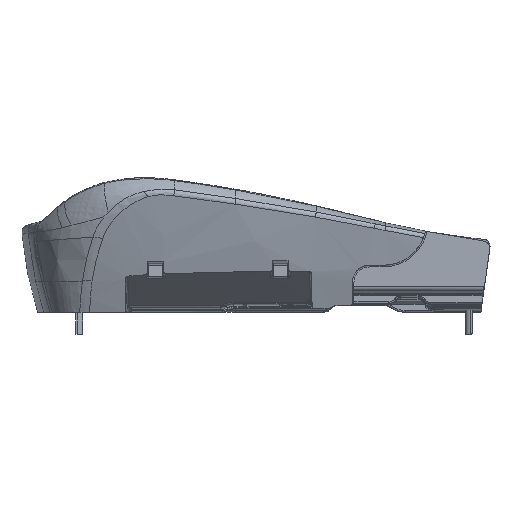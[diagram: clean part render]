
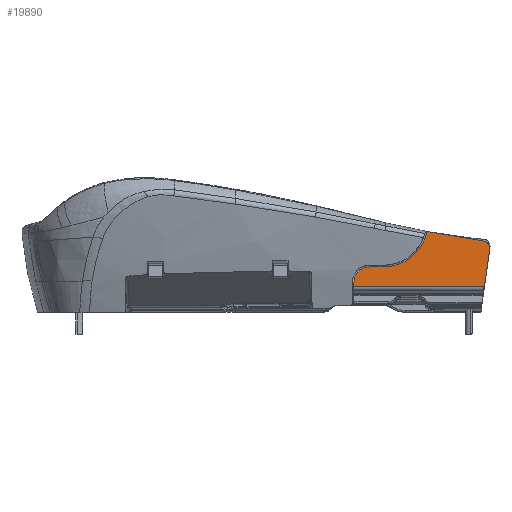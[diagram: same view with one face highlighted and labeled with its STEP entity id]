
A CAD part, front view. The second image highlights one B-rep face of the part: STEP entity #19890.
In plain terms, the highlighted planar face has unit normal (0, -1, 0).
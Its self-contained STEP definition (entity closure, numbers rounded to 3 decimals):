
#9388=VECTOR('Line Direction',#9387,1.) ;
#19855=VECTOR('Line Direction',#19854,1.) ;
#19869=VECTOR('Line Direction',#19868,1.) ;
#19876=VECTOR('Line Direction',#19875,1.) ;
#9387=DIRECTION('Vector Direction',(-0.139,0.,-0.99)) ;
#19813=DIRECTION('Axis2P3D Direction',(0.,1.,0.)) ;
#19814=DIRECTION('Axis2P3D XDirection',(0.,0.,1.)) ;
#19847=DIRECTION('Axis2P3D Direction',(0.,1.,0.)) ;
#19854=DIRECTION('Vector Direction',(-1.,0.,0.)) ;
#19861=DIRECTION('Axis2P3D Direction',(0.,1.,0.)) ;
#19868=DIRECTION('Vector Direction',(0.,0.,-1.)) ;
#19875=DIRECTION('Vector Direction',(1.,0.,0.)) ;
#9383=CARTESIAN_POINT('Vertex',(1292.561,-729.999,399.7)) ;
#9386=CARTESIAN_POINT('Line Origine',(1290.108,-729.999,382.249)) ;
#9390=CARTESIAN_POINT('Vertex',(1287.655,-729.999,364.797)) ;
#19788=CARTESIAN_POINT('Control Point',(1285.555,-729.999,409.399)) ;
#19789=CARTESIAN_POINT('Control Point',(1288.177,-729.999,408.962)) ;
#19790=CARTESIAN_POINT('Control Point',(1290.633,-729.999,407.484)) ;
#19791=CARTESIAN_POINT('Control Point',(1292.32,-729.999,405.06)) ;
#19792=CARTESIAN_POINT('Control Point',(1292.927,-729.999,402.31)) ;
#19793=CARTESIAN_POINT('Control Point',(1292.561,-729.999,399.7)) ;
#19794=CARTESIAN_POINT('Vertex',(1285.555,-729.999,409.399)) ;
#19812=CARTESIAN_POINT('Axis2P3D Location',(1200.074,-729.999,353.037)) ;
#19818=CARTESIAN_POINT('Control Point',(1285.96,-729.999,356.538)) ;
#19819=CARTESIAN_POINT('Control Point',(1286.33,-729.999,357.852)) ;
#19820=CARTESIAN_POINT('Control Point',(1286.653,-729.999,359.173)) ;
#19821=CARTESIAN_POINT('Control Point',(1286.938,-729.999,360.497)) ;
#19822=CARTESIAN_POINT('Control Point',(1287.249,-729.999,362.152)) ;
#19823=CARTESIAN_POINT('Control Point',(1287.511,-729.999,363.809)) ;
#19824=CARTESIAN_POINT('Control Point',(1287.561,-729.999,364.139)) ;
#19825=CARTESIAN_POINT('Control Point',(1287.609,-729.999,364.468)) ;
#19826=CARTESIAN_POINT('Control Point',(1287.655,-729.999,364.797)) ;
#19827=CARTESIAN_POINT('Vertex',(1285.96,-729.999,356.538)) ;
#19831=CARTESIAN_POINT('Control Point',(1285.555,-729.999,409.399)) ;
#19832=CARTESIAN_POINT('Control Point',(1282.896,-729.999,409.842)) ;
#19833=CARTESIAN_POINT('Control Point',(1280.237,-729.999,410.284)) ;
#19834=CARTESIAN_POINT('Control Point',(1277.738,-729.999,410.7)) ;
#19835=CARTESIAN_POINT('Control Point',(1268.808,-729.999,412.183)) ;
#19836=CARTESIAN_POINT('Control Point',(1259.884,-729.999,413.66)) ;
#19837=CARTESIAN_POINT('Control Point',(1253.619,-729.999,414.695)) ;
#19838=CARTESIAN_POINT('Control Point',(1243.149,-729.999,416.425)) ;
#19839=CARTESIAN_POINT('Control Point',(1232.689,-729.999,418.179)) ;
#19840=CARTESIAN_POINT('Control Point',(1228.486,-729.999,418.89)) ;
#19841=CARTESIAN_POINT('Control Point',(1224.286,-729.999,419.612)) ;
#19842=CARTESIAN_POINT('Control Point',(1220.088,-729.999,420.35)) ;
#19843=CARTESIAN_POINT('Vertex',(1220.088,-729.999,420.35)) ;
#19846=CARTESIAN_POINT('Axis2P3D Location',(1169.274,-729.999,431.396)) ;
#19850=CARTESIAN_POINT('Vertex',(1169.274,-729.999,379.396)) ;
#19853=CARTESIAN_POINT('Line Origine',(1161.355,-729.999,379.396)) ;
#19857=CARTESIAN_POINT('Vertex',(1153.435,-729.999,379.396)) ;
#19860=CARTESIAN_POINT('Axis2P3D Location',(1153.435,-729.999,361.396)) ;
#19864=CARTESIAN_POINT('Vertex',(1135.435,-729.999,361.396)) ;
#19867=CARTESIAN_POINT('Line Origine',(1135.435,-729.999,358.967)) ;
#19871=CARTESIAN_POINT('Vertex',(1135.435,-729.999,356.538)) ;
#19874=CARTESIAN_POINT('Line Origine',(1210.698,-729.999,356.538)) ;
#19815=AXIS2_PLACEMENT_3D('Plane Axis2P3D',#19812,#19813,#19814) ;
#19848=AXIS2_PLACEMENT_3D('Circle Axis2P3D',#19846,#19847,$) ;
#19862=AXIS2_PLACEMENT_3D('Circle Axis2P3D',#19860,#19861,$) ;
#9392=EDGE_CURVE('',#9384,#9391,#9389,.T.) ;
#19796=EDGE_CURVE('',#19795,#9384,#19787,.T.) ;
#19829=EDGE_CURVE('',#19828,#9391,#19817,.T.) ;
#19845=EDGE_CURVE('',#19795,#19844,#19830,.T.) ;
#19852=EDGE_CURVE('',#19851,#19844,#19849,.F.) ;
#19859=EDGE_CURVE('',#19851,#19858,#19856,.T.) ;
#19866=EDGE_CURVE('',#19858,#19865,#19863,.F.) ;
#19873=EDGE_CURVE('',#19865,#19872,#19870,.T.) ;
#19878=EDGE_CURVE('',#19872,#19828,#19877,.T.) ;
#19816=PLANE('Plane',#19815) ;
#19880=ORIENTED_EDGE('',*,*,#19829,.T.) ;
#19881=ORIENTED_EDGE('',*,*,#9392,.F.) ;
#19882=ORIENTED_EDGE('',*,*,#19796,.F.) ;
#19883=ORIENTED_EDGE('',*,*,#19845,.T.) ;
#19884=ORIENTED_EDGE('',*,*,#19852,.F.) ;
#19885=ORIENTED_EDGE('',*,*,#19859,.T.) ;
#19886=ORIENTED_EDGE('',*,*,#19866,.T.) ;
#19887=ORIENTED_EDGE('',*,*,#19873,.T.) ;
#19888=ORIENTED_EDGE('',*,*,#19878,.T.) ;
#9389=LINE('Line',#9386,#9388) ;
#19856=LINE('Line',#19853,#19855) ;
#19870=LINE('Line',#19867,#19869) ;
#19877=LINE('Line',#19874,#19876) ;
#19890=ADVANCED_FACE('\X2\575057AB53D16CE1\X0\0115',(#19889),#19816,.F.) ;
#19849=CIRCLE('generated circle',#19848,52.) ;
#19863=CIRCLE('generated circle',#19862,18.) ;
#9384=VERTEX_POINT('',#9383) ;
#9391=VERTEX_POINT('',#9390) ;
#19795=VERTEX_POINT('',#19794) ;
#19828=VERTEX_POINT('',#19827) ;
#19844=VERTEX_POINT('',#19843) ;
#19851=VERTEX_POINT('',#19850) ;
#19858=VERTEX_POINT('',#19857) ;
#19865=VERTEX_POINT('',#19864) ;
#19872=VERTEX_POINT('',#19871) ;
#19787=B_SPLINE_CURVE_WITH_KNOTS('',5,(#19788,#19789,#19790,#19791,#19792,#19793),.UNSPECIFIED.,.F.,.U.,(6,6),(0.,18.971),.UNSPECIFIED.) ;
#19817=B_SPLINE_CURVE_WITH_KNOTS('',5,(#19818,#19819,#19820,#19821,#19822,#19823,#19824,#19825,#19826),.UNSPECIFIED.,.F.,.U.,(6,3,6),(0.,9.562,11.933),.UNSPECIFIED.) ;
#19830=B_SPLINE_CURVE_WITH_KNOTS('',5,(#19831,#19832,#19833,#19834,#19835,#19836,#19837,#19838,#19839,#19840,#19841,#19842),.UNSPECIFIED.,.F.,.U.,(6,3,3,6),(0.,19.029,63.927,94.1),.UNSPECIFIED.) ;
#19879=EDGE_LOOP('',(#19880,#19881,#19882,#19883,#19884,#19885,#19886,#19887,#19888)) ;
#19889=FACE_OUTER_BOUND('',#19879,.T.) ;
